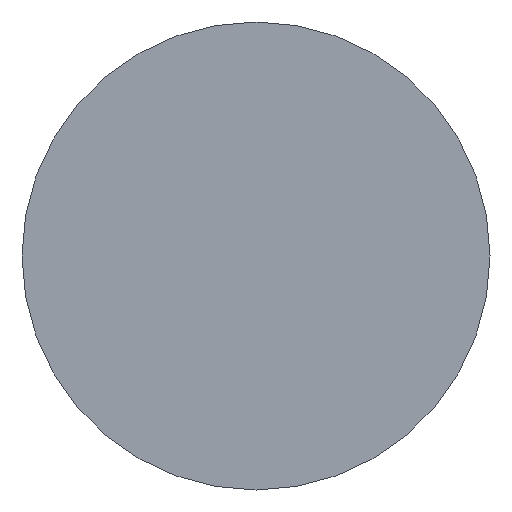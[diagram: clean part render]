
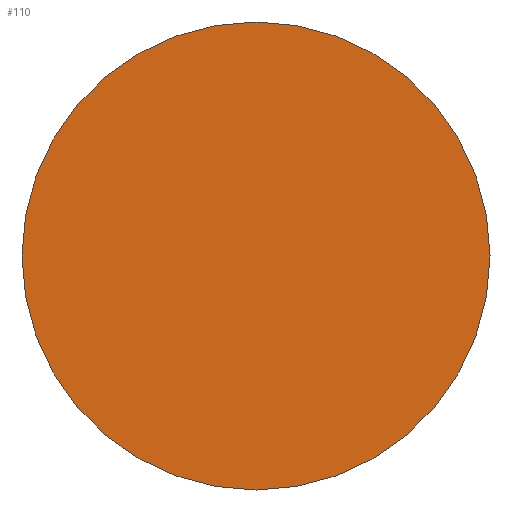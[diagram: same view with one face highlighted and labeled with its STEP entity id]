
A CAD part, left-side view. The second image highlights one B-rep face of the part: STEP entity #110.
In plain terms, the highlighted planar face has unit normal (-1, 0, 0).
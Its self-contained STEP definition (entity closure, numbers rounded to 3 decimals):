
#5 = CIRCLE ( 'NONE', #46, 16. ) ;
#34 = CIRCLE ( 'NONE', #63, 16. ) ;
#46 = AXIS2_PLACEMENT_3D ( 'NONE', #1071, #1210, #1216 ) ;
#63 = AXIS2_PLACEMENT_3D ( 'NONE', #660, #1188, #1021 ) ;
#110 = ADVANCED_FACE ( 'NONE', ( #1014 ), #916, .T. ) ;
#136 = AXIS2_PLACEMENT_3D ( 'NONE', #946, #711, #958 ) ;
#176 = ORIENTED_EDGE ( 'NONE', *, *, #236, .F. ) ;
#213 = ORIENTED_EDGE ( 'NONE', *, *, #247, .F. ) ;
#235 = EDGE_LOOP ( 'NONE', ( #176, #213 ) ) ;
#236 = EDGE_CURVE ( 'NONE', #345, #390, #34, .T. ) ;
#247 = EDGE_CURVE ( 'NONE', #390, #345, #5, .T. ) ;
#345 = VERTEX_POINT ( 'NONE', #604 ) ;
#390 = VERTEX_POINT ( 'NONE', #755 ) ;
#604 = CARTESIAN_POINT ( 'NONE',  ( 0., 0., -16. ) ) ;
#660 = CARTESIAN_POINT ( 'NONE',  ( 0., 0., 0. ) ) ;
#711 = DIRECTION ( 'NONE',  ( -1., 0., 0. ) ) ;
#755 = CARTESIAN_POINT ( 'NONE',  ( 0., 0., 16. ) ) ;
#916 = PLANE ( 'NONE',  #136 ) ;
#946 = CARTESIAN_POINT ( 'NONE',  ( 0., 16., 0. ) ) ;
#958 = DIRECTION ( 'NONE',  ( 0., 0., 1. ) ) ;
#1014 = FACE_OUTER_BOUND ( 'NONE', #235, .T. ) ;
#1021 = DIRECTION ( 'NONE',  ( 0., 0., -1. ) ) ;
#1071 = CARTESIAN_POINT ( 'NONE',  ( 0., 0., 0. ) ) ;
#1188 = DIRECTION ( 'NONE',  ( 1., 0., 0. ) ) ;
#1210 = DIRECTION ( 'NONE',  ( 1., 0., 0. ) ) ;
#1216 = DIRECTION ( 'NONE',  ( 0., 0., -1. ) ) ;
